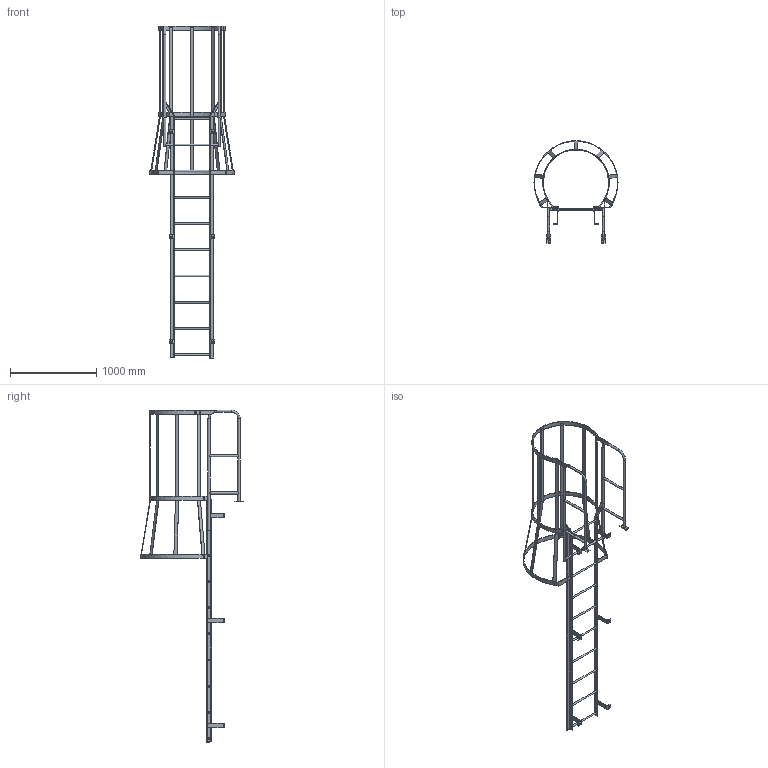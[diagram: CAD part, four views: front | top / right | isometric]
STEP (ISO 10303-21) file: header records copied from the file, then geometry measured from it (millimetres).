
FILE_DESCRIPTION(/* description */ (''),/* implementation_level */ '2;1');
FILE_NAME(/* name */ 'P:\MIKEL & KAREN\3570292 F10WC SIMPLIFIED PART.stp',/* time_stamp */ '2018-07-02T15:58:35-04:00',/* author */ ('stephanie'),/* organization */ (''),/* preprocessor_version */ 'ST-DEVELOPER v16.1',/* originating_system */ 'Autodesk Inventor 2016',/* authorisation */ '');
FILE_SCHEMA (('AUTOMOTIVE_DESIGN { 1 0 10303 214 3 1 1 }'));
Length unit declared in the file: centimetre
Products named in the file (1): 3570292 F10WC SIMPLIFIED PART
Bounding box: 977.88 x 1195.62 x 3857.62 mm (x, y, z)
Volume: 10362407.9 mm3; surface area: 4322787.1 mm2
Topology: 17 solids, 17 shells, 425 faces, 1184 edges, 776 vertices
Faces by surface type: plane 273, cylinder 144, torus 8
Full cylindrical faces by diameter (mm): 10.319 x4, 14.287 x6, 19.05 x10, 22.098 x10, 22.225 x20, 25.4 x10
Entity records: 14051 total; most frequent: CARTESIAN_POINT 2674, DIRECTION 2252, ORIENTED_EDGE 2204, EDGE_CURVE 1084, AXIS2_PLACEMENT_3D 760, VERTEX_POINT 746, LINE 732, VECTOR 732
